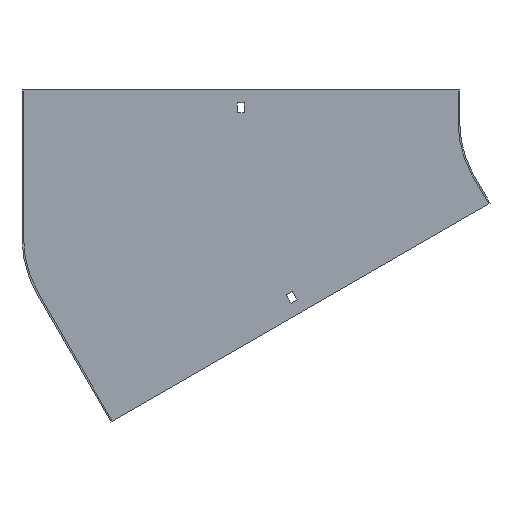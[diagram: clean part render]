
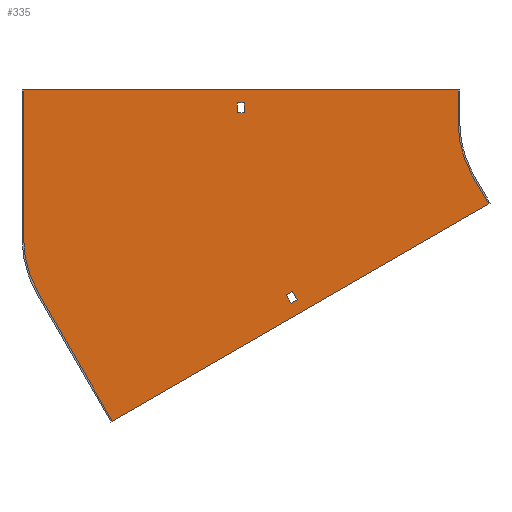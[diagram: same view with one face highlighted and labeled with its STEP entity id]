
A CAD part, front view. The second image highlights one B-rep face of the part: STEP entity #335.
In plain terms, the highlighted planar face has unit normal (0, -1, 0).
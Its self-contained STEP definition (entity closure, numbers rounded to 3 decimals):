
#4 = EDGE_CURVE ( 'NONE', #527, #312, #188, .T. ) ;
#6 = ORIENTED_EDGE ( 'NONE', *, *, #4, .F. ) ;
#9 = VECTOR ( 'NONE', #797, 1000. ) ;
#13 = LINE ( 'NONE', #142, #293 ) ;
#41 = EDGE_CURVE ( 'NONE', #451, #340, #13, .T. ) ;
#57 = CARTESIAN_POINT ( 'NONE',  ( -255.354, -1.5, -168.213 ) ) ;
#64 = EDGE_CURVE ( 'NONE', #581, #451, #73, .T. ) ;
#66 = VECTOR ( 'NONE', #781, 1000. ) ;
#67 = VECTOR ( 'NONE', #364, 1000. ) ;
#69 = DIRECTION ( 'NONE',  ( 0.5, 0., -0.866 ) ) ;
#73 = LINE ( 'NONE', #349, #235 ) ;
#85 = CARTESIAN_POINT ( 'NONE',  ( -71.603, -1.5, -75.981 ) ) ;
#88 = ORIENTED_EDGE ( 'NONE', *, *, #41, .F. ) ;
#102 = LINE ( 'NONE', #766, #66 ) ;
#115 = DIRECTION ( 'NONE',  ( 0., 0., -1. ) ) ;
#125 = CARTESIAN_POINT ( 'NONE',  ( -86.603, -1.5, -50. ) ) ;
#128 = VECTOR ( 'NONE', #470, 1000. ) ;
#136 = VECTOR ( 'NONE', #669, 1000. ) ;
#142 = CARTESIAN_POINT ( 'NONE',  ( -264.354, -1.5, -152.625 ) ) ;
#144 = EDGE_CURVE ( 'NONE', #340, #380, #793, .T. ) ;
#148 = EDGE_LOOP ( 'NONE', ( #307, #250, #477, #808 ) ) ;
#154 = ORIENTED_EDGE ( 'NONE', *, *, #399, .F. ) ;
#169 = VERTEX_POINT ( 'NONE', #216 ) ;
#188 = LINE ( 'NONE', #784, #136 ) ;
#198 = ORIENTED_EDGE ( 'NONE', *, *, #710, .F. ) ;
#207 = DIRECTION ( 'NONE',  ( -0.866, 0., -0.5 ) ) ;
#215 = LINE ( 'NONE', #744, #9 ) ;
#216 = CARTESIAN_POINT ( 'NONE',  ( -421.477, -1.5, -277.981 ) ) ;
#217 = ORIENTED_EDGE ( 'NONE', *, *, #292, .F. ) ;
#221 = DIRECTION ( 'NONE',  ( 0., 1., 0. ) ) ;
#225 = CARTESIAN_POINT ( 'NONE',  ( -259.854, -1.5, -160.419 ) ) ;
#226 = DIRECTION ( 'NONE',  ( 0., 0., -1. ) ) ;
#235 = VECTOR ( 'NONE', #207, 1000. ) ;
#236 = CIRCLE ( 'NONE', #733, 100. ) ;
#237 = EDGE_CURVE ( 'NONE', #299, #260, #305, .T. ) ;
#246 = EDGE_CURVE ( 'NONE', #621, #299, #429, .T. ) ;
#250 = ORIENTED_EDGE ( 'NONE', *, *, #528, .T. ) ;
#251 = LINE ( 'NONE', #635, #659 ) ;
#260 = VERTEX_POINT ( 'NONE', #637 ) ;
#264 = FACE_OUTER_BOUND ( 'NONE', #762, .T. ) ;
#271 = CARTESIAN_POINT ( 'NONE',  ( -249.725, -1.5, -164.963 ) ) ;
#291 = ORIENTED_EDGE ( 'NONE', *, *, #357, .F. ) ;
#292 = EDGE_CURVE ( 'NONE', #668, #827, #660, .T. ) ;
#293 = VECTOR ( 'NONE', #426, 1000. ) ;
#299 = VERTEX_POINT ( 'NONE', #755 ) ;
#305 = LINE ( 'NONE', #831, #352 ) ;
#307 = ORIENTED_EDGE ( 'NONE', *, *, #237, .T. ) ;
#308 = DIRECTION ( 'NONE',  ( -0.5, 0., 0.866 ) ) ;
#312 = VERTEX_POINT ( 'NONE', #764 ) ;
#314 = CARTESIAN_POINT ( 'NONE',  ( -258.725, -1.5, -149.375 ) ) ;
#321 = CARTESIAN_POINT ( 'NONE',  ( -504., -1.5, 30. ) ) ;
#333 = ORIENTED_EDGE ( 'NONE', *, *, #64, .F. ) ;
#335 = ADVANCED_FACE ( 'NONE', ( #473, #264, #396 ), #468, .T. ) ;
#340 = VERTEX_POINT ( 'NONE', #57 ) ;
#349 = CARTESIAN_POINT ( 'NONE',  ( 4.5, -1.5, -7.794 ) ) ;
#352 = VECTOR ( 'NONE', #442, 1000. ) ;
#354 = VECTOR ( 'NONE', #115, 1000. ) ;
#357 = EDGE_CURVE ( 'NONE', #541, #527, #672, .T. ) ;
#358 = CARTESIAN_POINT ( 'NONE',  ( -490.603, -1.5, -158.251 ) ) ;
#364 = DIRECTION ( 'NONE',  ( 0., 0., 1. ) ) ;
#372 = ORIENTED_EDGE ( 'NONE', *, *, #742, .F. ) ;
#380 = VERTEX_POINT ( 'NONE', #271 ) ;
#390 = DIRECTION ( 'NONE',  ( 1., 0., 0. ) ) ;
#396 = FACE_BOUND ( 'NONE', #148, .T. ) ;
#399 = EDGE_CURVE ( 'NONE', #592, #461, #480, .T. ) ;
#400 = EDGE_CURVE ( 'NONE', #312, #592, #236, .T. ) ;
#402 = CARTESIAN_POINT ( 'NONE',  ( 0., -1.5, 0. ) ) ;
#421 = AXIS2_PLACEMENT_3D ( 'NONE', #402, #790, #663 ) ;
#423 = EDGE_CURVE ( 'NONE', #461, #169, #215, .T. ) ;
#426 = DIRECTION ( 'NONE',  ( 0.5, 0., -0.866 ) ) ;
#429 = LINE ( 'NONE', #630, #67 ) ;
#442 = DIRECTION ( 'NONE',  ( 1., 0., 0. ) ) ;
#447 = EDGE_LOOP ( 'NONE', ( #372, #816, #88, #333 ) ) ;
#449 = DIRECTION ( 'NONE',  ( -0.5, 0., 0.866 ) ) ;
#450 = CARTESIAN_POINT ( 'NONE',  ( -298.75, -1.5, 0. ) ) ;
#451 = VERTEX_POINT ( 'NONE', #225 ) ;
#461 = VERTEX_POINT ( 'NONE', #85 ) ;
#462 = LINE ( 'NONE', #578, #128 ) ;
#468 = PLANE ( 'NONE',  #421 ) ;
#470 = DIRECTION ( 'NONE',  ( -1., 0., 0. ) ) ;
#473 = FACE_BOUND ( 'NONE', #447, .T. ) ;
#477 = ORIENTED_EDGE ( 'NONE', *, *, #737, .T. ) ;
#480 = LINE ( 'NONE', #125, #760 ) ;
#488 = CARTESIAN_POINT ( 'NONE',  ( -504., -1.5, -108.251 ) ) ;
#493 = CARTESIAN_POINT ( 'NONE',  ( 9., -1.5, -15.588 ) ) ;
#519 = CARTESIAN_POINT ( 'NONE',  ( -404., -1.5, -108.251 ) ) ;
#527 = VERTEX_POINT ( 'NONE', #774 ) ;
#528 = EDGE_CURVE ( 'NONE', #260, #739, #653, .T. ) ;
#538 = VECTOR ( 'NONE', #390, 1000. ) ;
#541 = VERTEX_POINT ( 'NONE', #321 ) ;
#544 = ORIENTED_EDGE ( 'NONE', *, *, #423, .F. ) ;
#548 = DIRECTION ( 'NONE',  ( 0.866, 0., 0.5 ) ) ;
#556 = CARTESIAN_POINT ( 'NONE',  ( 0., -1.5, 0. ) ) ;
#563 = VECTOR ( 'NONE', #449, 1000. ) ;
#564 = VECTOR ( 'NONE', #548, 1000. ) ;
#578 = CARTESIAN_POINT ( 'NONE',  ( 0., -1.5, 9. ) ) ;
#581 = VERTEX_POINT ( 'NONE', #709 ) ;
#592 = VERTEX_POINT ( 'NONE', #602 ) ;
#601 = ORIENTED_EDGE ( 'NONE', *, *, #735, .F. ) ;
#602 = CARTESIAN_POINT ( 'NONE',  ( -86.603, -1.5, -50. ) ) ;
#618 = DIRECTION ( 'NONE',  ( 0., 0., -1. ) ) ;
#621 = VERTEX_POINT ( 'NONE', #763 ) ;
#630 = CARTESIAN_POINT ( 'NONE',  ( -305.25, -1.5, 0. ) ) ;
#635 = CARTESIAN_POINT ( 'NONE',  ( -421.477, -1.5, -277.981 ) ) ;
#637 = CARTESIAN_POINT ( 'NONE',  ( -298.75, -1.5, 18. ) ) ;
#653 = LINE ( 'NONE', #450, #354 ) ;
#659 = VECTOR ( 'NONE', #308, 1000. ) ;
#660 = CIRCLE ( 'NONE', #683, 100. ) ;
#663 = DIRECTION ( 'NONE',  ( 0., 0., -1. ) ) ;
#668 = VERTEX_POINT ( 'NONE', #358 ) ;
#669 = DIRECTION ( 'NONE',  ( 0., 0., -1. ) ) ;
#672 = LINE ( 'NONE', #731, #538 ) ;
#683 = AXIS2_PLACEMENT_3D ( 'NONE', #519, #221, #226 ) ;
#709 = CARTESIAN_POINT ( 'NONE',  ( -254.225, -1.5, -157.169 ) ) ;
#710 = EDGE_CURVE ( 'NONE', #169, #668, #251, .T. ) ;
#731 = CARTESIAN_POINT ( 'NONE',  ( -505.5, -1.5, 30. ) ) ;
#733 = AXIS2_PLACEMENT_3D ( 'NONE', #556, #734, #618 ) ;
#734 = DIRECTION ( 'NONE',  ( 0., -1., 0. ) ) ;
#735 = EDGE_CURVE ( 'NONE', #827, #541, #102, .T. ) ;
#737 = EDGE_CURVE ( 'NONE', #739, #621, #462, .T. ) ;
#739 = VERTEX_POINT ( 'NONE', #773 ) ;
#742 = EDGE_CURVE ( 'NONE', #380, #581, #835, .T. ) ;
#744 = CARTESIAN_POINT ( 'NONE',  ( -70.304, -1.5, -75.231 ) ) ;
#755 = CARTESIAN_POINT ( 'NONE',  ( -305.25, -1.5, 18. ) ) ;
#760 = VECTOR ( 'NONE', #69, 1000. ) ;
#762 = EDGE_LOOP ( 'NONE', ( #291, #601, #217, #198, #544, #154, #780, #6 ) ) ;
#763 = CARTESIAN_POINT ( 'NONE',  ( -305.25, -1.5, 9. ) ) ;
#764 = CARTESIAN_POINT ( 'NONE',  ( -100., -1.5, 0. ) ) ;
#766 = CARTESIAN_POINT ( 'NONE',  ( -504., -1.5, -108.251 ) ) ;
#773 = CARTESIAN_POINT ( 'NONE',  ( -298.75, -1.5, 9. ) ) ;
#774 = CARTESIAN_POINT ( 'NONE',  ( -100., -1.5, 30. ) ) ;
#780 = ORIENTED_EDGE ( 'NONE', *, *, #400, .F. ) ;
#781 = DIRECTION ( 'NONE',  ( 0., 0., 1. ) ) ;
#784 = CARTESIAN_POINT ( 'NONE',  ( -100., -1.5, 30. ) ) ;
#790 = DIRECTION ( 'NONE',  ( 0., -1., 0. ) ) ;
#793 = LINE ( 'NONE', #493, #564 ) ;
#797 = DIRECTION ( 'NONE',  ( -0.866, 0., -0.5 ) ) ;
#808 = ORIENTED_EDGE ( 'NONE', *, *, #246, .T. ) ;
#816 = ORIENTED_EDGE ( 'NONE', *, *, #144, .F. ) ;
#827 = VERTEX_POINT ( 'NONE', #488 ) ;
#831 = CARTESIAN_POINT ( 'NONE',  ( 0., -1.5, 18. ) ) ;
#835 = LINE ( 'NONE', #314, #563 ) ;
